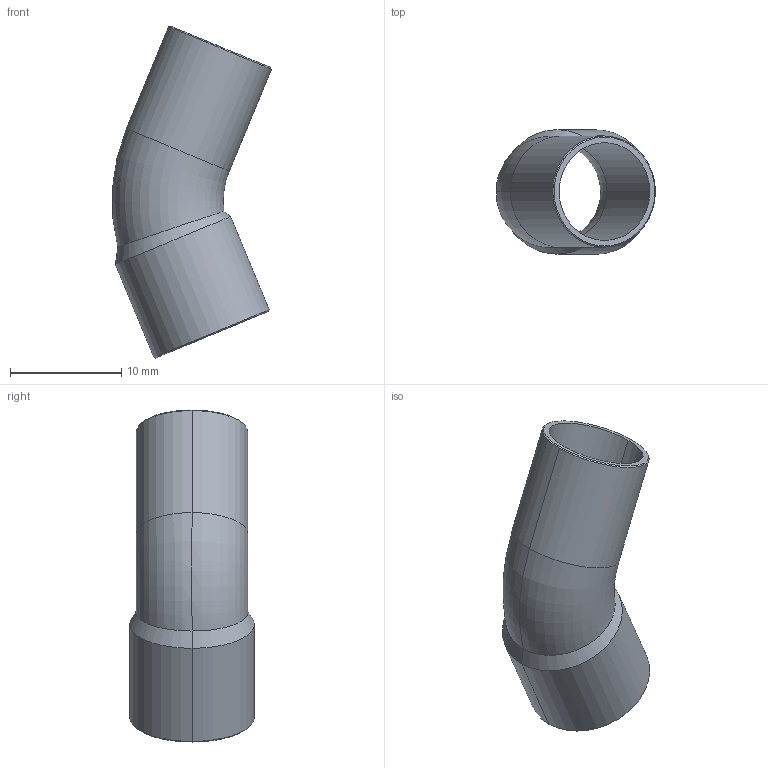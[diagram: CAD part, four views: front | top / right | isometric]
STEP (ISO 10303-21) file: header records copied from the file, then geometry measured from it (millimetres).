
FILE_DESCRIPTION((''),'2;1');
FILE_NAME('P:\Bouwmaten\z-maattekeningen 3D\5000\5040\1504010.stp','2005-10-05T11:00:37',('Kris'),(''),'Autodesk Inventor 8','Autodesk Inventor 8','');
FILE_SCHEMA(('AUTOMOTIVE_DESIGN { 1 0 10303 214 1 1 1 1 }'));
Length unit declared in the file: millimetre
Products named in the file (1): 1504010
Bounding box: 14.29 x 11.2 x 29.85 mm (x, y, z)
Volume: 511 mm3; surface area: 1737 mm2
Topology: 1 solids, 1 shells, 24 faces, 50 edges, 28 vertices
Faces by surface type: cone 10, cylinder 8, torus 4, plane 2
Entity records: 729 total; most frequent: CARTESIAN_POINT 179, DIRECTION 124, ORIENTED_EDGE 100, AXIS2_PLACEMENT_3D 53, EDGE_CURVE 50, VERTEX_POINT 28, CIRCLE 28, EDGE_LOOP 26
